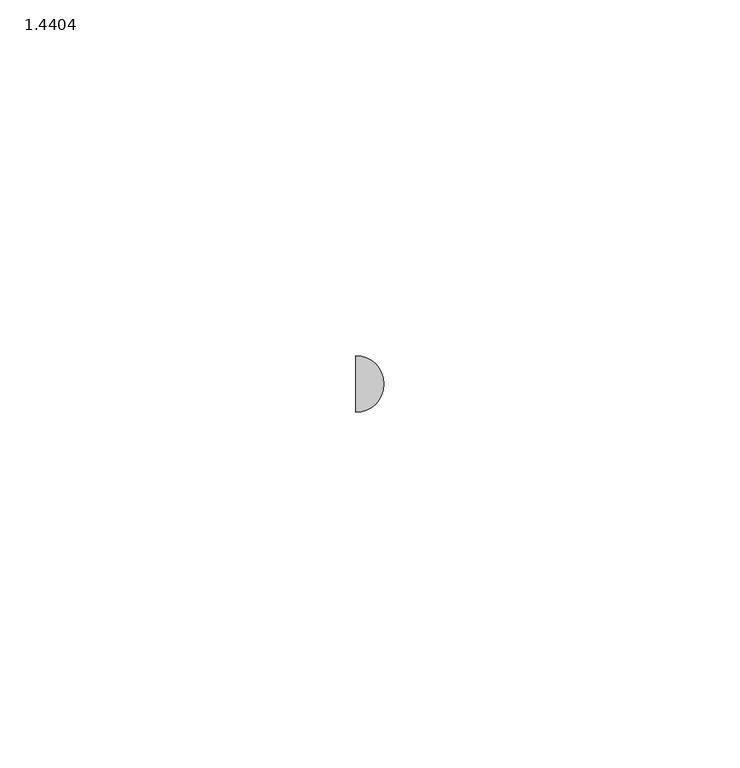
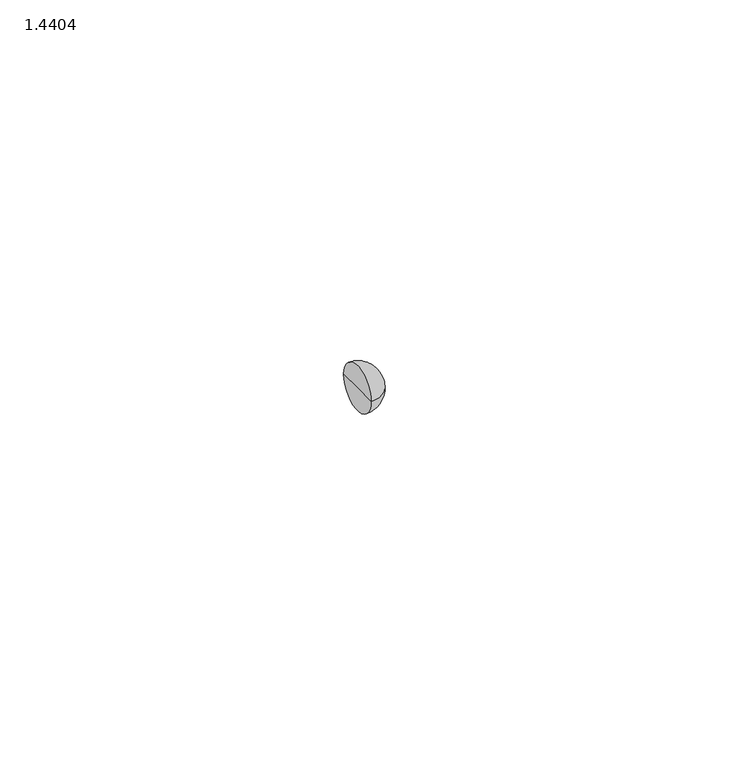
"""IFC4 building model written with IfcOpenShell, lengths in millimetres: pipe fitting geometry, PIF_ST_UN_ACO pipe multireducer_ACO : 1.4404."""

from ifc_helpers import new_model, si_unit, point, frame, origin, place, context, project, spatial, circle_curve, ellipse_curve, trimmed, source, transform, mapped, element, save
from ifc_brep_helpers import plane_surface, revolved_surface, advanced_brep


def pipe_fitting_1_4404_cceba5ae(model_context):
    return source(origin(), model_context, "Body", "AdvancedBrep", [
        advanced_brep(
        [(-62.5, 0.0, 0.0), (-62.5, 4.0, 0.0), (-62.5, -4.0, 0.0), (-58.5, 0.0, 0.0)],
        [
            (0, 1),
            (1, 2, circle_curve(frame((-62.5, 0.0, 0.0), z_axis=(-1.0, 0.0, 0.0), x_axis=(0.0, -1.0, 0.0)), 4.0)),
            (2, 0),
            (2, 1, circle_curve(frame((-62.5, 0.0, 0.0), z_axis=(-1.0, 0.0, 0.0), x_axis=(0.0, -1.0, 0.0)), 4.0)),
            (1, 3, circle_curve(frame((-62.5, 0.0, 0.0), z_axis=(0.0, 0.0, -1.0), x_axis=(1.0, 0.0, 0.0)), 4.0)),
            (3, 2, circle_curve(frame((-62.5, 0.0, 0.0), z_axis=(0.0, 0.0, -1.0), x_axis=(1.0, 0.0, 0.0)), 4.0)),
        ],
        [
            plane_surface(frame((-62.5, 0.0, 0.0), z_axis=(-1.0, 0.0, 0.0), x_axis=(0.0, -1.0, 0.0))),
            revolved_surface(trimmed(ellipse_curve(frame((-62.5, 0.0, 0.0), z_axis=(0.0, 0.0, -1.0), x_axis=(1.0, 0.0, 0.0)), 4.0, 4.0), [point((-58.5, 0.0, 0.0))], [point((-62.5, -4.0, 0.0))], True, "CARTESIAN"), (-76.1508039, 0.0, 0.0), (-1.0, 0.0, 0.0)),
        ],
        [
            (0, [[1, 2, 3]]),
            (0, [[-3, 4, -1]]),
            (1, [[5, 6, -2]]),
            (1, [[-6, -5, -4]]),
        ],
    ),
    ])


if __name__ == "__main__":
    model = new_model("IFC4")
    model_context = context("Model", 3, world=origin())
    ifc_project = project(units=[si_unit("LENGTHUNIT", "METRE", prefix="MILLI")], contexts=[model_context])
    site = spatial("IfcSite", under=ifc_project)
    building = spatial("IfcBuilding", under=site)
    placement = place(None, origin())
    pipe_fitting_1_4404_shape = pipe_fitting_1_4404_cceba5ae(model_context)
    element("IfcPipeFitting", 1, ObjectType="PIF_ST_UN_ACO pipe multireducer_ACO : 1.4404", at=placement, inside=building, context=model_context, shape_type="MappedRepresentation", body=[
        mapped(pipe_fitting_1_4404_shape, transform((0.0, 0.0, 0.0), x_axis=(1.0, 0.0, 0.0), y_axis=(0.0, 1.0, 0.0), z_axis=(0.0, 0.0, 1.0))),
    ])
    save(model, "model.ifc")
